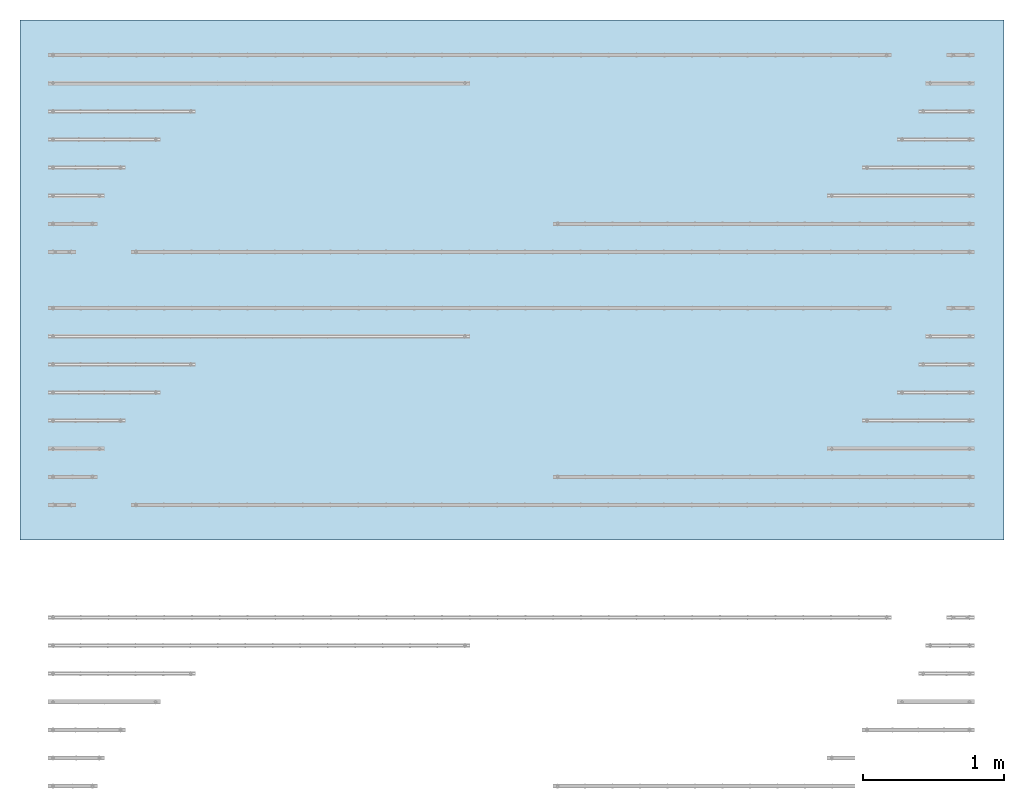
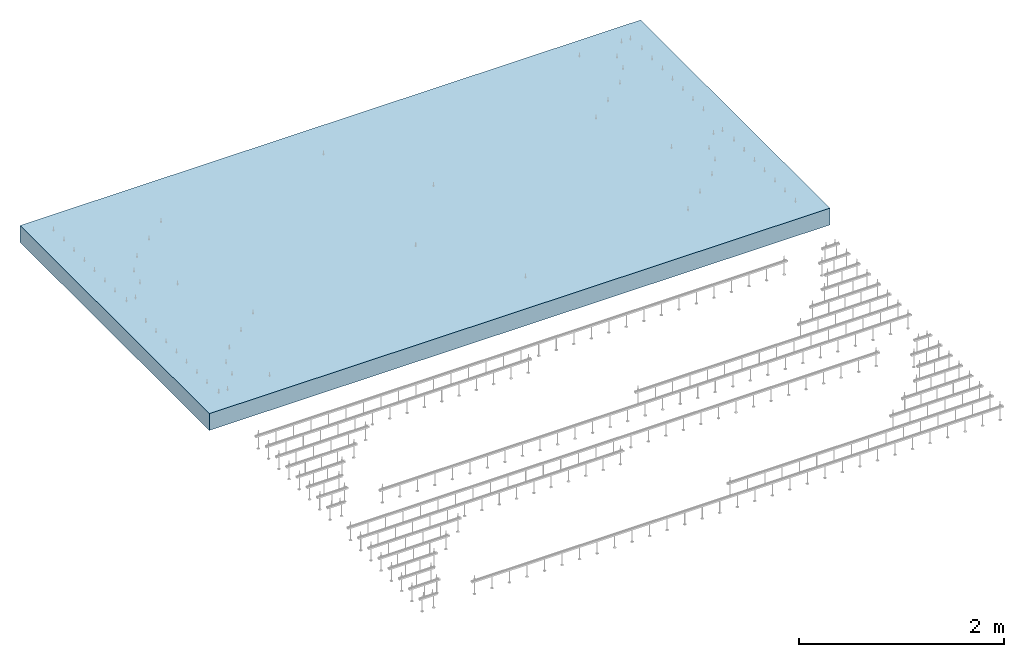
# One storey, incomplete: 1 slab.
"""IFC2X3 building model written with IfcOpenShell, lengths in metres."""

from ifc_helpers import new_model, entity, si_unit, converted_unit, derived_unit, direction, frame, frame_2d, origin, place, context, subcontext, project, spatial, rectangle, extrude, material, layer, layer_set, layer_usage, element, save


model = new_model("IFC2X3")

# Units and contexts
model_context = context("Model", 3, precision=1e-05, world=origin(), true_north=direction((6.12303176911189e-17, 1.0)))
body_context = subcontext(model_context, "Body", "Model", "MODEL_VIEW")
ifc_project = project(units=[si_unit("LENGTHUNIT", "METRE"), si_unit("AREAUNIT", "SQUARE_METRE"), si_unit("VOLUMEUNIT", "CUBIC_METRE"), converted_unit("PLANEANGLEUNIT", "DEGREE", entity("IfcRatioMeasure", 0.0174532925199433), si_unit("PLANEANGLEUNIT", "RADIAN"), dimensions=[0, 0, 0, 0, 0, 0, 0]), si_unit("MASSUNIT", "GRAM", prefix="KILO"), si_unit("TIMEUNIT", "SECOND"), si_unit("FREQUENCYUNIT", "HERTZ"), si_unit("THERMODYNAMICTEMPERATUREUNIT", "DEGREE_CELSIUS"), derived_unit("THERMALTRANSMITTANCEUNIT", [(si_unit("MASSUNIT", "GRAM", prefix="KILO"), 1), (si_unit("THERMODYNAMICTEMPERATUREUNIT", "KELVIN"), -1), (si_unit("TIMEUNIT", "SECOND"), -3)]), derived_unit("VOLUMETRICFLOWRATEUNIT", [(si_unit("LENGTHUNIT", "METRE"), 3), (si_unit("TIMEUNIT", "SECOND"), -1)]), si_unit("ELECTRICCURRENTUNIT", "AMPERE"), si_unit("ELECTRICVOLTAGEUNIT", "VOLT"), si_unit("POWERUNIT", "WATT"), si_unit("FORCEUNIT", "NEWTON", prefix="KILO"), si_unit("ILLUMINANCEUNIT", "LUX"), si_unit("LUMINOUSFLUXUNIT", "LUMEN"), si_unit("LUMINOUSINTENSITYUNIT", "CANDELA"), derived_unit("USERDEFINED", [(si_unit("MASSUNIT", "GRAM", prefix="KILO"), -1), (si_unit("LENGTHUNIT", "METRE"), -2), (si_unit("TIMEUNIT", "SECOND"), 3), (si_unit("LUMINOUSFLUXUNIT", "LUMEN"), 1)]), derived_unit("LINEARVELOCITYUNIT", [(si_unit("LENGTHUNIT", "METRE"), 1), (si_unit("TIMEUNIT", "SECOND"), -1)]), si_unit("PRESSUREUNIT", "PASCAL"), derived_unit("USERDEFINED", [(si_unit("LENGTHUNIT", "METRE"), -2), (si_unit("MASSUNIT", "GRAM", prefix="KILO"), 1), (si_unit("TIMEUNIT", "SECOND"), -2)])], contexts=[model_context])

# Site, building, storey
site_placement = place(None, origin())
site = spatial("IfcSite", under=ifc_project, at=site_placement, Name="Default", CompositionType="ELEMENT")
building_placement = place(site_placement, origin())
building = spatial("IfcBuilding", under=site, at=building_placement, CompositionType="ELEMENT")
storey_placement = place(building_placement, origin())
storey = spatial("IfcBuildingStorey", under=building, at=storey_placement, Name="Ebene 0", CompositionType="ELEMENT", Elevation=0.0)

# Slab
ifc_material = material(Name="Stahlbeton - Ortbeton")
ifc_layer = layer(ifc_material, 0.2)
ifc_layer_set = layer_set([ifc_layer], Name="Geschossdecke:STB 20.0")
ifc_layer_usage = layer_usage(ifc_layer_set, "AXIS3", "POSITIVE", 0.0)
slab_placement = place(storey_placement, origin())
element("IfcSlab", 1, at=slab_placement, inside=storey, material=ifc_layer_usage, Name="Geschossdecke:STB 20.0", ObjectType="Geschossdecke:STB 20.0", PredefinedType="FLOOR", context=body_context, shape_type="SweptSolid", body=[
    extrude(rectangle(XDim=3.7, YDim=7.0, at=frame_2d((-5.55111512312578e-16, 0.0), x_axis=(1.0, 0.0))), frame((0.430676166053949, 6.16873172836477, 0.0), z_axis=(0.0, 0.0, -1.0), x_axis=(0.0, 1.0, 0.0)), (0.0, 0.0, 1.0), 0.2),
])

save(model, "model.ifc")
